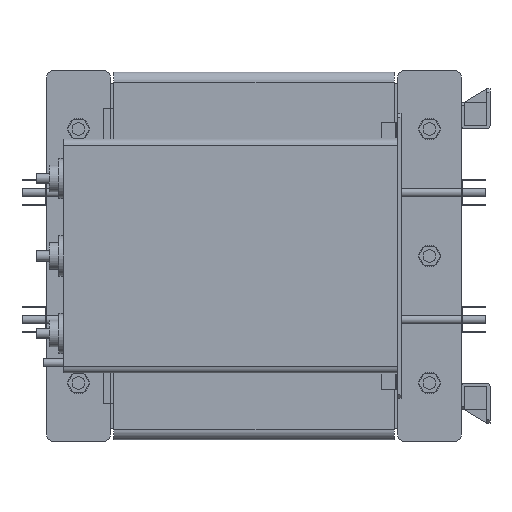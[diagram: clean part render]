
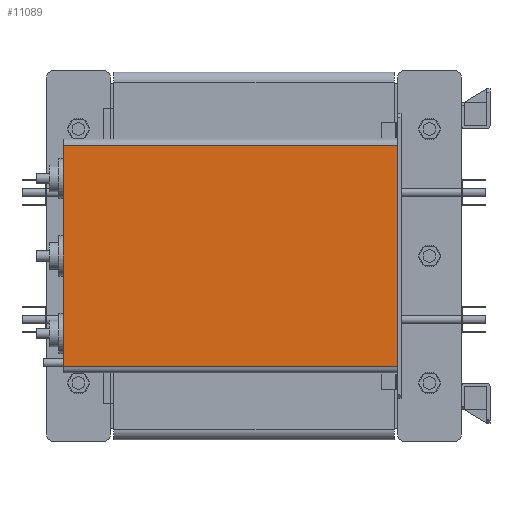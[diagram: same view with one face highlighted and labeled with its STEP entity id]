
A CAD part, left-side view. The second image highlights one B-rep face of the part: STEP entity #11089.
In plain terms, the highlighted planar face has unit normal (-1, 0, 0).
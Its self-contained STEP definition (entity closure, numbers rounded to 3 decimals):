
#1293=FACE_OUTER_BOUND('',#2019,.T.);
#2019=EDGE_LOOP('',(#9317,#9318,#9319,#9320));
#3056=LINE('',#17878,#4188);
#3128=LINE('',#18072,#4260);
#3129=LINE('',#18075,#4261);
#3130=LINE('',#18076,#4262);
#4188=VECTOR('',#14711,10.);
#4260=VECTOR('',#14893,10.);
#4261=VECTOR('',#14896,10.);
#4262=VECTOR('',#14897,10.);
#5182=VERTEX_POINT('',#17875);
#5183=VERTEX_POINT('',#17877);
#5250=VERTEX_POINT('',#18070);
#5251=VERTEX_POINT('',#18074);
#6565=EDGE_CURVE('',#5182,#5183,#3056,.T.);
#6663=EDGE_CURVE('',#5182,#5250,#3128,.T.);
#6664=EDGE_CURVE('',#5251,#5250,#3129,.T.);
#6665=EDGE_CURVE('',#5183,#5251,#3130,.T.);
#9317=ORIENTED_EDGE('',*,*,#6565,.F.);
#9318=ORIENTED_EDGE('',*,*,#6663,.T.);
#9319=ORIENTED_EDGE('',*,*,#6664,.F.);
#9320=ORIENTED_EDGE('',*,*,#6665,.F.);
#10473=PLANE('',#12109);
#11089=ADVANCED_FACE('',(#1293),#10473,.T.);
#12109=AXIS2_PLACEMENT_3D('',#18073,#14894,#14895);
#14711=DIRECTION('',(0.,0.,-1.));
#14893=DIRECTION('',(0.,1.,0.));
#14894=DIRECTION('center_axis',(-1.,0.,0.));
#14895=DIRECTION('ref_axis',(0.,0.,
1.));
#14896=DIRECTION('',(0.,0.,1.));
#14897=DIRECTION('',(0.,1.,0.));
#17875=CARTESIAN_POINT('',(-585.,-5.,165.));
#17877=CARTESIAN_POINT('',(-585.,-5.,-165.));
#17878=CARTESIAN_POINT('',(-585.,-5.,51.25));
#18070=CARTESIAN_POINT('',(-585.,495.,165.));
#18072=CARTESIAN_POINT('',(-585.,-5.,165.));
#18073=CARTESIAN_POINT('Origin',(-585.,-5.,-165.));
#18074=CARTESIAN_POINT('',(-585.,495.,-165.));
#18075=CARTESIAN_POINT('',(-585.,495.,-165.));
#18076=CARTESIAN_POINT('',(-585.,-5.,-165.));
